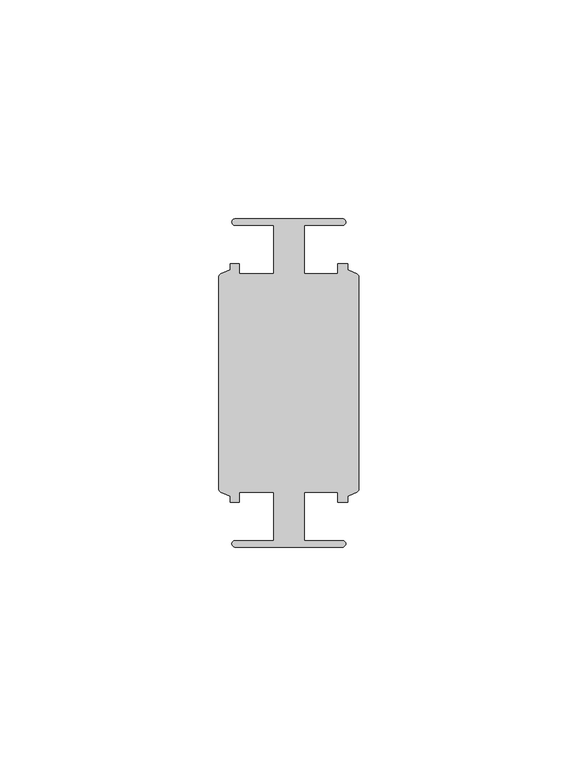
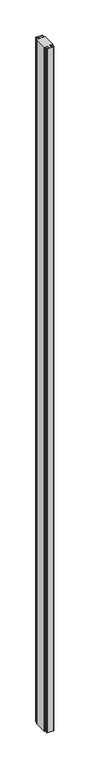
"""IFC4 building model written with IfcOpenShell, lengths in millimetres: member geometry, Прямоугольный импост : 4-AMG-2-Профиль 26Х75 Средний."""

from ifc_helpers import new_model, si_unit, point, frame, frame_2d, origin, place, context, project, spatial, polyline, circle_curve, trimmed, segment, composite_curve, outline, extrude, source, transform, mapped, element, save


def member_9c11876c(model_context):
    return source(origin(), model_context, "Body", "SweptSolid", [
        extrude(outline(composite_curve([segment(trimmed(circle_curve(frame_2d((12.2876562, 36.75)), 0.75), [point((12.2876562, 37.5))], [point((12.2876562, 36.0))], False, "CARTESIAN"), True, "CONTINUOUS"), segment(polyline([(12.2876562, 36.0), (3.5376562, 36.0), (3.5376562, 25.0), (11.2593767, 25.0), (11.2593767, 27.25), (13.4846403, 27.25), (13.4846403, 25.836597), (15.5572539, 24.9333875)]), True, "CONTINUOUS"), segment(trimmed(circle_curve(frame_2d((15.2376562, 24.2)), 0.8), [point((15.5572539, 24.9333875))], [point((16.0376562, 24.2))], False, "CARTESIAN"), True, "CONTINUOUS"), segment(polyline([(16.0376562, 24.2), (16.0376562, -24.2)]), True, "CONTINUOUS"), segment(trimmed(circle_curve(frame_2d((15.2376562, -24.2)), 0.8), [point((16.0376562, -24.2))], [point((15.5572539, -24.9333875))], False, "CARTESIAN"), True, "CONTINUOUS"), segment(polyline([(15.5572539, -24.9333875), (13.4846403, -25.836597), (13.4846403, -27.25), (11.2593767, -27.25), (11.2593767, -24.9914758), (3.5376562, -24.9914758), (3.5376562, -36.0), (12.2876562, -36.0)]), True, "CONTINUOUS"), segment(trimmed(circle_curve(frame_2d((12.2876562, -36.75)), 0.75), [point((12.2876562, -36.0))], [point((12.2876562, -37.5))], False, "CARTESIAN"), True, "CONTINUOUS"), segment(polyline([(12.2876562, -37.5), (-12.2123438, -37.5)]), True, "CONTINUOUS"), segment(trimmed(circle_curve(frame_2d((-12.2123438, -36.75)), 0.75), [point((-12.2123438, -37.5))], [point((-12.2123438, -36.0))], False, "CARTESIAN"), True, "CONTINUOUS"), segment(polyline([(-12.2123438, -36.0), (-3.4623438, -36.0), (-3.4623438, -24.9913353), (-11.2593767, -24.9913353), (-11.2593767, -27.25), (-13.4093278, -27.25), (-13.4093278, -25.836597), (-15.4819415, -24.9333875)]), True, "CONTINUOUS"), segment(trimmed(circle_curve(frame_2d((-15.1623438, -24.2)), 0.8), [point((-15.4819415, -24.9333875))], [point((-15.9623438, -24.2))], False, "CARTESIAN"), True, "CONTINUOUS"), segment(polyline([(-15.9623438, -24.2), (-15.9623438, 24.2)]), True, "CONTINUOUS"), segment(trimmed(circle_curve(frame_2d((-15.1623438, 24.2)), 0.8), [point((-15.9623438, 24.2))], [point((-15.4819415, 24.9333875))], False, "CARTESIAN"), True, "CONTINUOUS"), segment(polyline([(-15.4819415, 24.9333875), (-13.4093278, 25.836597), (-13.4093278, 27.25), (-11.2593767, 27.25), (-11.2593767, 25.0), (-3.4623438, 25.0), (-3.4623438, 36.0), (-12.2123438, 36.0)]), True, "CONTINUOUS"), segment(trimmed(circle_curve(frame_2d((-12.2123438, 36.75)), 0.75), [point((-12.2123438, 36.0))], [point((-12.2123438, 37.5))], False, "CARTESIAN"), True, "CONTINUOUS"), segment(polyline([(-12.2123438, 37.5), (12.2876562, 37.5)]), True, "CONTINUOUS")], self_intersect=False)), frame((0.0, 0.0, -2746.0), z_axis=(0.0, 0.0, 1.0), x_axis=(1.0, 0.0, 0.0)), (0.0, 0.0, 1.0), 2746.0),
    ])


if __name__ == "__main__":
    model = new_model("IFC4")
    model_context = context("Model", 3, world=origin())
    ifc_project = project(units=[si_unit("LENGTHUNIT", "METRE", prefix="MILLI")], contexts=[model_context])
    site = spatial("IfcSite", under=ifc_project)
    building = spatial("IfcBuilding", under=site)
    placement = place(None, origin())
    member_shape = member_9c11876c(model_context)
    element("IfcMember", 1, ObjectType="Прямоугольный импост : 4-AMG-2-Профиль 26Х75 Средний", at=placement, inside=building, context=model_context, shape_type="MappedRepresentation", body=[
        mapped(member_shape, transform((0.0, 0.0, 0.0), x_axis=(1.0, 0.0, 0.0), y_axis=(0.0, 1.0, 0.0), z_axis=(0.0, 0.0, 1.0))),
    ])
    save(model, "model.ifc")
